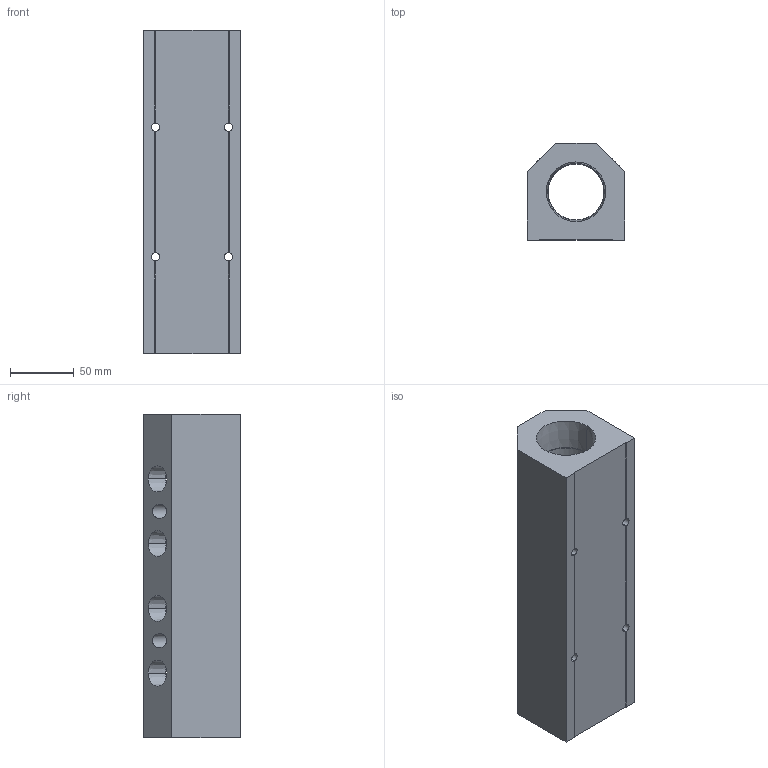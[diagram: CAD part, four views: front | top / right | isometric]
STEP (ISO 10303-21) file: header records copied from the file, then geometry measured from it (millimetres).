
FILE_DESCRIPTION (( 'STEP AP214' ), '1' );
FILE_NAME ('ALM4BD-N8N24-254R.step', '2022-02-07T09:23:21', ( '' ), ( '' ), 'SwSTEP 2.0', 'SolidWorks 2020', '' );
FILE_SCHEMA (( 'AUTOMOTIVE_DESIGN' ));
Length unit declared in the file: millimetre
Products named in the file (1): ALM4BD-N8N24-254R
Bounding box: 76.2 x 76.2 x 254 mm (x, y, z)
Volume: 897283.3 mm3; surface area: 122671.2 mm2
Topology: 1 solids, 1 shells, 327 faces, 862 edges, 572 vertices
Faces by surface type: plane 228, bspline 61, cone 20, cylinder 18
Entity records: 17716 total; most frequent: CARTESIAN_POINT 6939, ORIENTED_EDGE 1724, DIRECTION 1294, EDGE_CURVE 862, LINE 656, VECTOR 656, VERTEX_POINT 572, EDGE_LOOP 388
